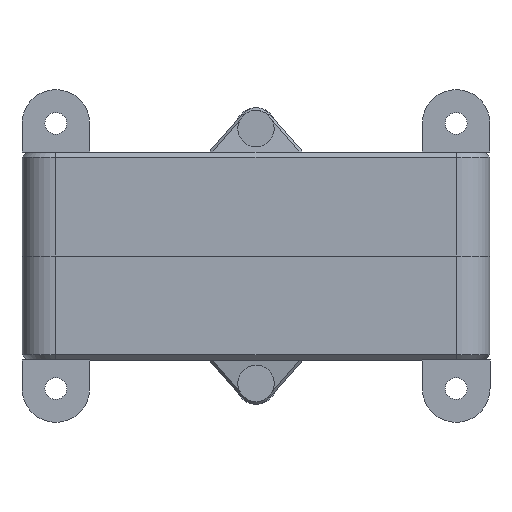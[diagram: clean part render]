
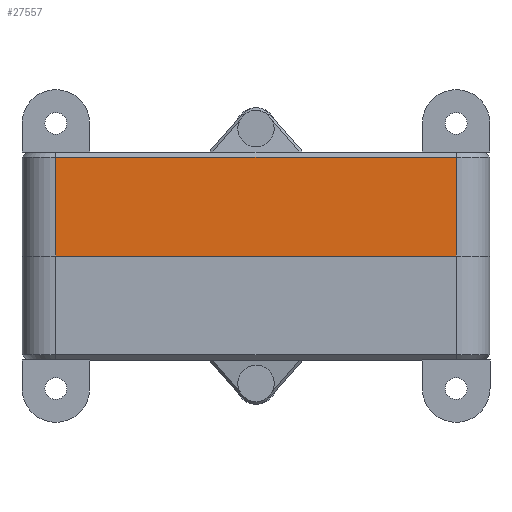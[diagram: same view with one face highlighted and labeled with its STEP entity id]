
A CAD part, front view. The second image highlights one B-rep face of the part: STEP entity #27557.
In plain terms, the highlighted planar face has unit normal (0, -1, 0).
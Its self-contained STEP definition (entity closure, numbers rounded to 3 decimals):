
#469=PLANE('',#29445);
#2239=LINE('',#37342,#5242);
#2279=LINE('',#37449,#5282);
#2430=LINE('',#37994,#5433);
#2431=LINE('',#37996,#5434);
#5242=VECTOR('',#31061,10.);
#5282=VECTOR('',#31141,10.);
#5433=VECTOR('',#31382,10.);
#5434=VECTOR('',#31385,10.);
#8415=FACE_OUTER_BOUND('',#9970,.T.);
#9970=EDGE_LOOP('',(#19307,#19308,#19309,#19310));
#11998=VERTEX_POINT('',#37339);
#11999=VERTEX_POINT('',#37341);
#12044=VERTEX_POINT('',#37441);
#12046=VERTEX_POINT('',#37447);
#14758=EDGE_CURVE('',#11998,#11999,#2239,.T.);
#14812=EDGE_CURVE('',#12046,#12044,#2279,.T.);
#15002=EDGE_CURVE('',#11999,#12046,#2430,.T.);
#15003=EDGE_CURVE('',#12044,#11998,#2431,.T.);
#19307=ORIENTED_EDGE('',*,*,#14812,.F.);
#19308=ORIENTED_EDGE('',*,*,#15002,.F.);
#19309=ORIENTED_EDGE('',*,*,#14758,.F.);
#19310=ORIENTED_EDGE('',*,*,#15003,.F.);
#27557=ADVANCED_FACE('',(#8415),#469,.T.);
#29445=AXIS2_PLACEMENT_3D('',#37995,#31383,#31384);
#31061=DIRECTION('',(1.,0.,0.));
#31141=DIRECTION('',(-1.,0.,0.));
#31382=DIRECTION('',(0.,0.,-1.));
#31383=DIRECTION('center_axis',(0.,-1.,0.));
#31384=DIRECTION('ref_axis',(1.,0.,0.));
#31385=DIRECTION('',(0.,0.,1.));
#37339=CARTESIAN_POINT('',(-38.5,0.,20.));
#37341=CARTESIAN_POINT('',(38.5,0.,20.));
#37342=CARTESIAN_POINT('',(-45.,0.,20.));
#37441=CARTESIAN_POINT('',(-38.5,0.,1.));
#37447=CARTESIAN_POINT('',(38.5,0.,1.));
#37449=CARTESIAN_POINT('',(-22.5,0.,1.));
#37994=CARTESIAN_POINT('',(38.5,0.,0.));
#37995=CARTESIAN_POINT('Origin',(-45.,0.,
0.));
#37996=CARTESIAN_POINT('',(-38.5,0.,0.));
